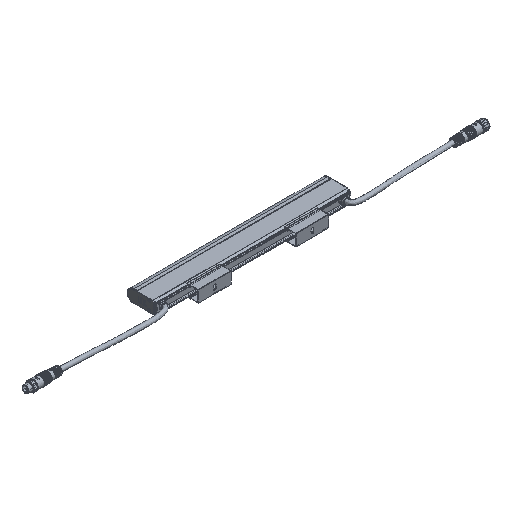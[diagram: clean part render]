
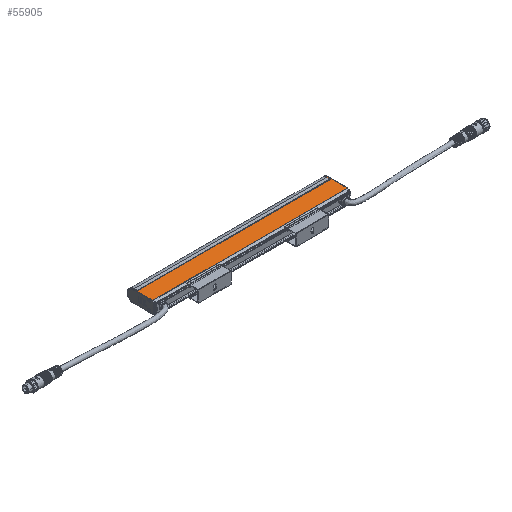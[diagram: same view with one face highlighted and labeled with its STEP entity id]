
A CAD part, isometric view. The second image highlights one B-rep face of the part: STEP entity #55905.
In plain terms, the highlighted planar face has unit normal (0, 0, 1).
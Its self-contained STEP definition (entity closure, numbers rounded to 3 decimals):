
#87 = LINE ( 'NONE', #17967, #53470 ) ;
#607 = CARTESIAN_POINT ( 'NONE',  ( 148., 50.842, 9.15 ) ) ;
#885 = DIRECTION ( 'NONE',  ( 0., -1., 0. ) ) ;
#1030 = VECTOR ( 'NONE', #885, 1000. ) ;
#2197 = VECTOR ( 'NONE', #30668, 1000. ) ;
#3634 = VERTEX_POINT ( 'NONE', #34759 ) ;
#3697 = EDGE_CURVE ( 'NONE', #3634, #27114, #20373, .T. ) ;
#4747 = DIRECTION ( 'NONE',  ( -1., 0., 0. ) ) ;
#4874 = VECTOR ( 'NONE', #36536, 1000. ) ;
#5045 = LINE ( 'NONE', #31738, #9105 ) ;
#5307 = VERTEX_POINT ( 'NONE', #15229 ) ;
#6056 = CARTESIAN_POINT ( 'NONE',  ( 148., 50.842, 9.15 ) ) ;
#7117 = CARTESIAN_POINT ( 'NONE',  ( 148., 45.5, 9.15 ) ) ;
#9105 = VECTOR ( 'NONE', #49488, 1000. ) ;
#9985 = LINE ( 'NONE', #22896, #1030 ) ;
#10024 = VERTEX_POINT ( 'NONE', #7117 ) ;
#11579 = ORIENTED_EDGE ( 'NONE', *, *, #41146, .T. ) ;
#12776 = CARTESIAN_POINT ( 'NONE',  ( -149.5, 0., 9.15 ) ) ;
#14465 = ORIENTED_EDGE ( 'NONE', *, *, #30061, .F. ) ;
#15229 = CARTESIAN_POINT ( 'NONE',  ( -149.5, 20.786, 9.15 ) ) ;
#15357 = VERTEX_POINT ( 'NONE', #48467 ) ;
#17567 = VECTOR ( 'NONE', #18525, 1000. ) ;
#17857 = AXIS2_PLACEMENT_3D ( 'NONE', #25302, #42822, #56746 ) ;
#17967 = CARTESIAN_POINT ( 'NONE',  ( 148., 20.786, 9.15 ) ) ;
#18525 = DIRECTION ( 'NONE',  ( -1., 0., 0. ) ) ;
#20373 = LINE ( 'NONE', #55101, #4874 ) ;
#21389 = EDGE_CURVE ( 'NONE', #38619, #5307, #57182, .T. ) ;
#21475 = PLANE ( 'NONE',  #17857 ) ;
#22896 = CARTESIAN_POINT ( 'NONE',  ( 148., 45.5, 9.15 ) ) ;
#24510 = CARTESIAN_POINT ( 'NONE',  ( -149.5, 50.842, 9.15 ) ) ;
#25302 = CARTESIAN_POINT ( 'NONE',  ( 148., 0., 9.15 ) ) ;
#27114 = VERTEX_POINT ( 'NONE', #32312 ) ;
#28054 = ORIENTED_EDGE ( 'NONE', *, *, #48865, .T. ) ;
#28687 = VECTOR ( 'NONE', #56436, 1000. ) ;
#29353 = VERTEX_POINT ( 'NONE', #46547 ) ;
#30061 = EDGE_CURVE ( 'NONE', #3634, #5307, #87, .T. ) ;
#30465 = ORIENTED_EDGE ( 'NONE', *, *, #52091, .F. ) ;
#30668 = DIRECTION ( 'NONE',  ( 0., -1., 0. ) ) ;
#30870 = DIRECTION ( 'NONE',  ( 1., 0., 0. ) ) ;
#31738 = CARTESIAN_POINT ( 'NONE',  ( 148., 50.842, 9.15 ) ) ;
#32312 = CARTESIAN_POINT ( 'NONE',  ( 149.5, 50.842, 9.15 ) ) ;
#33326 = VECTOR ( 'NONE', #30870, 1000. ) ;
#34086 = VERTEX_POINT ( 'NONE', #6056 ) ;
#34564 = CARTESIAN_POINT ( 'NONE',  ( -148., 45.5, 9.15 ) ) ;
#34759 = CARTESIAN_POINT ( 'NONE',  ( 149.5, 20.786, 9.15 ) ) ;
#36536 = DIRECTION ( 'NONE',  ( 0., 1., 0. ) ) ;
#38436 = FACE_OUTER_BOUND ( 'NONE', #46240, .T. ) ;
#38600 = ORIENTED_EDGE ( 'NONE', *, *, #52344, .F. ) ;
#38619 = VERTEX_POINT ( 'NONE', #24510 ) ;
#39404 = EDGE_CURVE ( 'NONE', #15357, #38619, #5045, .T. ) ;
#39590 = LINE ( 'NONE', #34564, #28687 ) ;
#39937 = CARTESIAN_POINT ( 'NONE',  ( -148., 45.5, 9.15 ) ) ;
#41146 = EDGE_CURVE ( 'NONE', #34086, #10024, #9985, .T. ) ;
#42822 = DIRECTION ( 'NONE',  ( 0., 0., -1. ) ) ;
#42864 = ORIENTED_EDGE ( 'NONE', *, *, #21389, .T. ) ;
#45684 = LINE ( 'NONE', #607, #17567 ) ;
#46240 = EDGE_LOOP ( 'NONE', ( #38600, #50281, #42864, #14465, #50896, #28054, #11579, #30465 ) ) ;
#46547 = CARTESIAN_POINT ( 'NONE',  ( -148., 45.5, 9.15 ) ) ;
#48467 = CARTESIAN_POINT ( 'NONE',  ( -148., 50.842, 9.15 ) ) ;
#48865 = EDGE_CURVE ( 'NONE', #27114, #34086, #45684, .T. ) ;
#49488 = DIRECTION ( 'NONE',  ( -1., 0., 0. ) ) ;
#50281 = ORIENTED_EDGE ( 'NONE', *, *, #39404, .T. ) ;
#50896 = ORIENTED_EDGE ( 'NONE', *, *, #3697, .T. ) ;
#52091 = EDGE_CURVE ( 'NONE', #29353, #10024, #52997, .T. ) ;
#52344 = EDGE_CURVE ( 'NONE', #15357, #29353, #39590, .T. ) ;
#52997 = LINE ( 'NONE', #39937, #33326 ) ;
#53470 = VECTOR ( 'NONE', #4747, 1000. ) ;
#55101 = CARTESIAN_POINT ( 'NONE',  ( 149.5, 50.842, 9.15 ) ) ;
#55905 = ADVANCED_FACE ( 'NONE', ( #38436 ), #21475, .F. ) ;
#56436 = DIRECTION ( 'NONE',  ( 0., -1., 0. ) ) ;
#56746 = DIRECTION ( 'NONE',  ( 0., 1., 0. ) ) ;
#57182 = LINE ( 'NONE', #12776, #2197 ) ;
